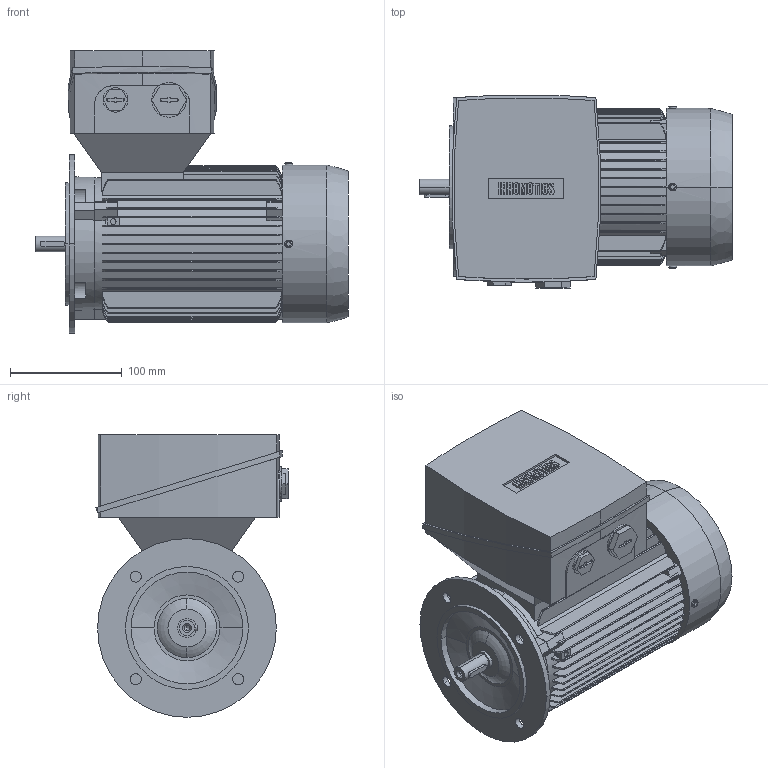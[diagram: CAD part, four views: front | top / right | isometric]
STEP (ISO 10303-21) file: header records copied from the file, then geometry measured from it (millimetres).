
FILE_DESCRIPTION(('STEP AP214'),'1');
FILE_NAME('cctmp_0CF631C7-2279-42F7-A20F-FE023A671CA1_2026_04_16_09_04_28_0400_2740..stp','2026-04-16T07:04:28',('KiM GmbH'),('CADClick - www.CADClick.com'),'Spatial InterOp 3D',' ','unknown authorization');
FILE_SCHEMA(('AUTOMOTIVE_DESIGN'));
Length unit declared in the file: millimetre
Products named in the file (1): 2026_04_16_09_04_28_0399
Bounding box: 280 x 171.96 x 253 mm (x, y, z)
Volume: 5056696.5 mm3; surface area: 380724 mm2
Topology: 1 solids, 1 shells, 736 faces, 1988 edges, 1307 vertices
Faces by surface type: plane 443, cylinder 183, torus 94, cone 16
Entity records: 33760 total; most frequent: CARTESIAN_POINT 9654, ORIENTED_EDGE 3948, DIRECTION 3545, EDGE_CURVE 1974, VERTEX_POINT 1307, AXIS2_PLACEMENT_3D 1197, LINE 1151, VECTOR 1151
